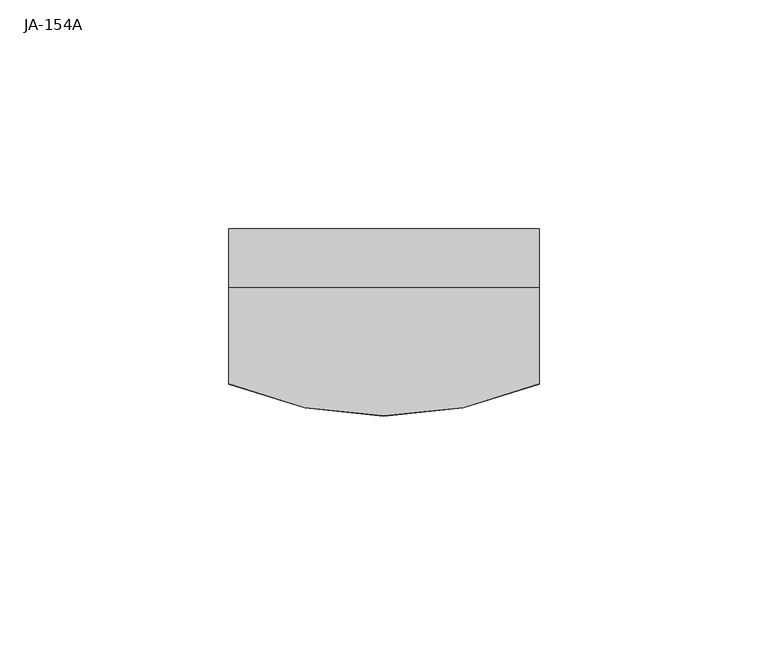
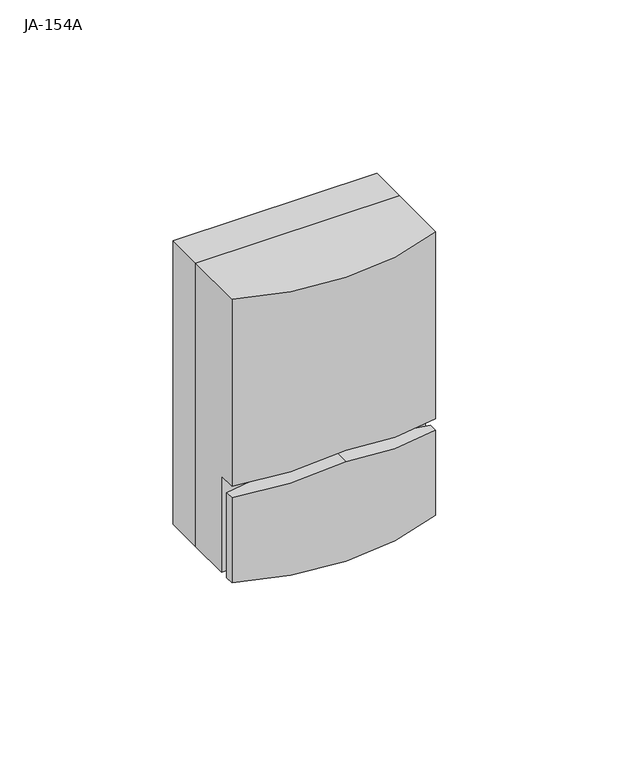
"""IFC4 building model written with IfcOpenShell, lengths in millimetres: proxy geometry, Sirény.CC : JA-154A."""

from ifc_helpers import new_model, si_unit, frame, origin, place, context, project, spatial, polyline, circle_curve, ellipse_curve, outline, extrude, source, transform, mapped, element, save
from ifc_brep_helpers import plane_surface, cylinder_surface, advanced_brep


def ja_154a_af2859ae(model_context):
    return source(origin(), model_context, "Body", "SolidModel", [
        advanced_brep(
        [(34.0, -13.0, 50.0), (-34.0, -13.0, 50.0), (-34.0, -34.0, 50.0), (34.0, -34.0, 50.0), (-34.0, -13.0, -50.0), (34.0, -13.0, -50.0), (34.0, -28.0, -50.0), (-34.0, -28.0, -50.0), (-34.0, -28.0, -20.0), (-34.0, -28.0, -16.0), (-34.0, -34.0, -16.0), (34.0, -34.0, -16.0), (34.0, -28.0, -16.0), (34.0, -28.0, -20.0), (0.0, -41.0, -11.0), (0.0, -28.0, -11.0)],
        [
            (0, 1),
            (1, 2),
            (2, 3, circle_curve(frame((0.0, 45.0714286, 50.0), z_axis=(0.0, 0.0, 1.0), x_axis=(1.0, 0.0, 0.0)), 86.0714286)),
            (3, 0),
            (4, 5),
            (5, 6),
            (6, 7),
            (7, 4),
            (0, 5),
            (4, 1),
            (7, 8),
            (8, 9),
            (9, 10),
            (10, 2),
            (3, 11),
            (11, 12),
            (12, 13),
            (13, 6),
            (10, 14, ellipse_curve(frame((0.0, 45.0714286, -11.0), z_axis=(-0.14549399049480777, 0.0, 0.9893591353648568), x_axis=(0.9893591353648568, 0.0, 0.14549399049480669)), 86.9971535, 86.0714286)),
            (14, 11, ellipse_curve(frame((0.0, 45.0714286, -11.0), z_axis=(0.14549399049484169, 0.0, 0.9893591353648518), x_axis=(-0.9893591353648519, 0.0, 0.14549399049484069)), 86.9971535, 86.0714286)),
            (12, 15),
            (15, 9),
            (14, 15),
        ],
        [
            plane_surface(frame((-34.0, -13.0, 50.0), z_axis=(0.0, 0.0, 1.0), x_axis=(-1.0, 0.0, 0.0))),
            plane_surface(frame((-34.0, -13.0, -50.0), z_axis=(0.0, 0.0, -1.0), x_axis=(1.0, 0.0, 0.0))),
            plane_surface(frame((34.0, -13.0, 50.0), z_axis=(0.0, 1.0, 0.0), x_axis=(0.0, 0.0, -1.0))),
            plane_surface(frame((-34.0, -13.0, 50.0), z_axis=(-1.0, 0.0, 0.0), x_axis=(0.0, 0.0, -1.0))),
            plane_surface(frame((34.0, -34.0, 50.0), z_axis=(1.0, 0.0, 0.0), x_axis=(0.0, 0.0, -1.0))),
            cylinder_surface(frame((0.0, 45.0714286, -50.0), z_axis=(0.0, 0.0, 1.0), x_axis=(1.0, 0.0, 0.0)), 86.0714286),
            plane_surface(frame((34.0, -28.0, -16.0), z_axis=(0.0, -1.0000000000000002, 0.0), x_axis=(0.9893591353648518, 0.0, -0.14549399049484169))),
            plane_surface(frame((34.0, -31.0, -16.0), z_axis=(-0.14549399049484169, 0.0, -0.9893591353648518), x_axis=(0.0, 1.0, 0.0))),
            plane_surface(frame((0.0, -31.0, -11.0), z_axis=(0.14549399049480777, 0.0, -0.9893591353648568), x_axis=(0.0, 1.0, 0.0))),
        ],
        [
            (0, [[1, 2, 3, 4]]),
            (1, [[5, 6, 7, 8]]),
            (2, [[-1, 9, -5, 10]]),
            (3, [[-2, -10, -8, 11, 12, 13, 14]]),
            (4, [[-4, 15, 16, 17, 18, -6, -9]]),
            (5, [[-3, -14, 19, 20, -15]]),
            (6, [[21, 22, -12, -11, -7, -18, -17]]),
            (7, [[-21, -16, -20, 23]]),
            (8, [[-22, -23, -19, -13]]),
        ],
    ),
        advanced_brep(
        [(34.0, -34.0, -50.0), (-34.0, -34.0, -50.0), (-34.0, -31.0, -50.0), (34.0, -31.0, -50.0), (-34.0, -34.0, -20.0), (-34.0, -31.0, -20.0), (34.0, -31.0, -20.0), (34.0, -34.0, -20.0), (0.0, -41.0, -15.0), (0.0, -31.0, -15.0)],
        [
            (0, 1, circle_curve(frame((0.0, 45.0714286, -50.0), z_axis=(0.0, 0.0, -1.0), x_axis=(1.0, 0.0, 0.0)), 86.0714286)),
            (1, 2),
            (2, 3),
            (3, 0),
            (1, 4),
            (4, 5),
            (5, 2),
            (3, 6),
            (6, 7),
            (7, 0),
            (7, 8, ellipse_curve(frame((0.0, 45.0714286, -15.0), z_axis=(-0.14549399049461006, 0.0, -0.9893591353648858), x_axis=(-0.9893591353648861, 0.0, 0.1454939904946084)), 86.9971535, 86.0714286)),
            (8, 4, ellipse_curve(frame((0.0, 45.0714286, -15.0), z_axis=(0.14549399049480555, 0.0, -0.989359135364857), x_axis=(0.989359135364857, 0.0, 0.14549399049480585)), 86.9971535, 86.0714286)),
            (5, 9),
            (9, 6),
            (8, 9),
        ],
        [
            plane_surface(frame((-34.0, -13.0, -50.0), z_axis=(0.0, 0.0, -1.0), x_axis=(1.0, 0.0, 0.0))),
            plane_surface(frame((-34.0, -13.0, 50.0), z_axis=(-1.0, 0.0, 0.0), x_axis=(0.0, 0.0, -1.0))),
            plane_surface(frame((34.0, -34.0, 50.0), z_axis=(1.0, 0.0, 0.0), x_axis=(0.0, 0.0, -1.0))),
            cylinder_surface(frame((0.0, 45.0714286, -50.0), z_axis=(0.0, 0.0, 1.0), x_axis=(1.0, 0.0, 0.0)), 86.0714286),
            plane_surface(frame((34.0, -31.0, -16.0), z_axis=(0.0, 1.0000000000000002, 0.0), x_axis=(-0.9893591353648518, 0.0, 0.14549399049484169))),
            plane_surface(frame((-34.0, -41.0, -20.0), z_axis=(-0.14549399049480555, 0.0, 0.989359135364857), x_axis=(0.0, 1.0, 0.0))),
            plane_surface(frame((0.0, -41.0, -15.0), z_axis=(0.14549399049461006, 0.0, 0.9893591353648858), x_axis=(0.0, 1.0, 0.0))),
        ],
        [
            (0, [[1, 2, 3, 4]]),
            (1, [[-2, 5, 6, 7]]),
            (2, [[-4, 8, 9, 10]]),
            (3, [[-1, -10, 11, 12, -5]]),
            (4, [[-3, -7, 13, 14, -8]]),
            (5, [[15, -13, -6, -12]]),
            (6, [[-15, -11, -9, -14]]),
        ],
    ),
        extrude(outline(polyline([(34.0, 0.0), (34.0, -13.0), (-34.0, -13.0), (-34.0, 0.0), (34.0, 0.0)])), frame((0.0, 0.0, -50.0), z_axis=(0.0, 0.0, 1.0), x_axis=(1.0, 0.0, 0.0)), (0.0, 0.0, 1.0), 100.0),
    ])


if __name__ == "__main__":
    model = new_model("IFC4")
    model_context = context("Model", 3, world=origin())
    ifc_project = project(units=[si_unit("LENGTHUNIT", "METRE", prefix="MILLI")], contexts=[model_context])
    site = spatial("IfcSite", under=ifc_project)
    building = spatial("IfcBuilding", under=site)
    placement = place(None, origin())
    ja_154a_shape = ja_154a_af2859ae(model_context)
    element("IfcBuildingElementProxy", 1, Name="Sirény.CC : JA-154A", ObjectType="Sirény.CC : JA-154A", at=placement, inside=building, context=model_context, shape_type="MappedRepresentation", body=[
        mapped(ja_154a_shape, transform((0.0, 0.0, 0.0), x_axis=(1.0, 0.0, 0.0), y_axis=(0.0, 1.0, 0.0), z_axis=(0.0, 0.0, 1.0))),
    ])
    save(model, "model.ifc")
